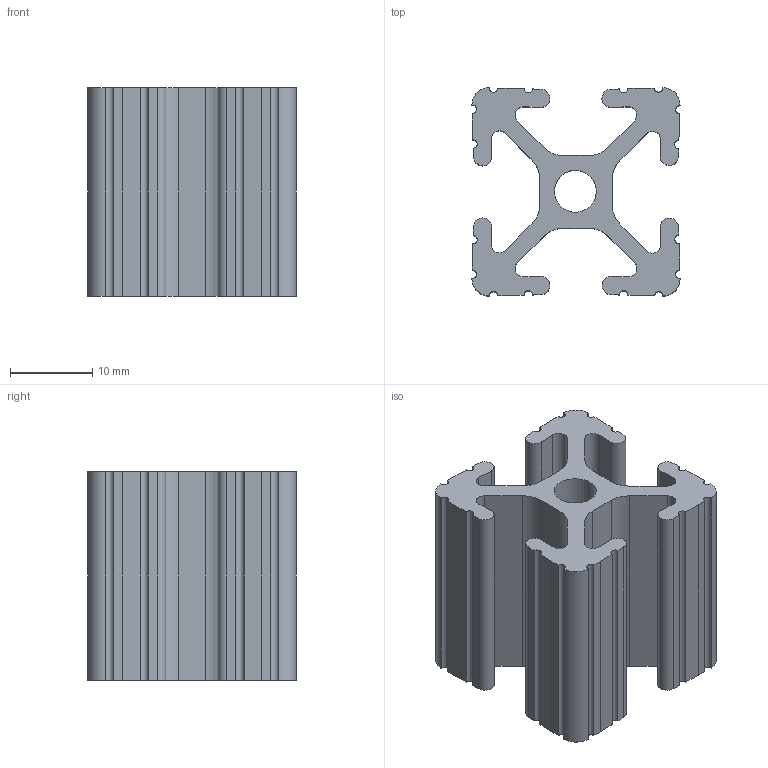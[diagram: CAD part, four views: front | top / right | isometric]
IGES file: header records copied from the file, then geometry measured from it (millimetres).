
Global section: file name: C:\Documents and Settings\Administrator\Desktop\Transfer Temp\8020-1010.igs; native system: AutoDesk Inventor R2.0 ; preprocessor: AutoDesk Inventor Iges Exporter R2.0; author: No Author specified; organization: No Organization specified; date: 20011227.204113; units: inch
Bounding box: 25.36 x 25.39 x 25.4 mm (x, y, z)
Surface area: 6212.8 mm2 (no closed solid volume)
Topology: 0 solids, 0 shells, 100 faces, 588 edges, 588 vertices
Faces by surface type: revolution 54, bspline 46
